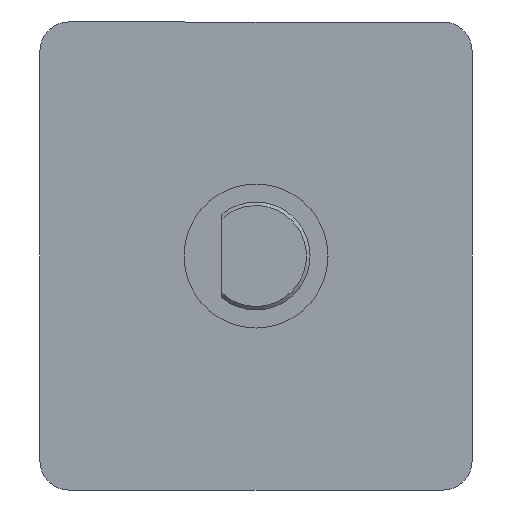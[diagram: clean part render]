
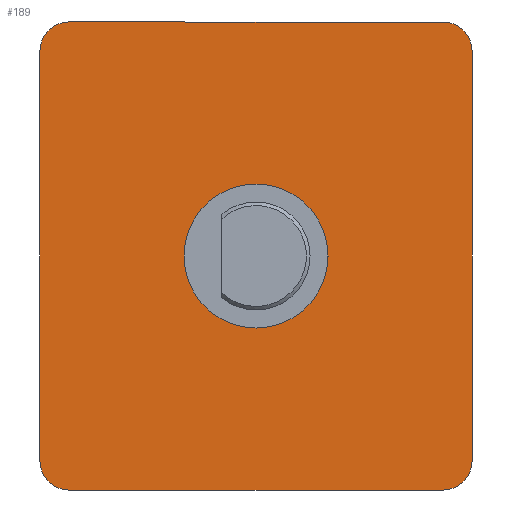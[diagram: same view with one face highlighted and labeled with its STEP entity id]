
A CAD part, left-side view. The second image highlights one B-rep face of the part: STEP entity #189.
In plain terms, the highlighted planar face has unit normal (-1, 0, 0).
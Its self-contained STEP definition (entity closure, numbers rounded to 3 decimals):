
#1 = VERTEX_POINT ( 'NONE', #331 ) ;
#4 = LINE ( 'NONE', #170, #154 ) ;
#7 = VECTOR ( 'NONE', #525, 1000. ) ;
#11 = PLANE ( 'NONE',  #349 ) ;
#19 = VERTEX_POINT ( 'NONE', #118 ) ;
#43 = AXIS2_PLACEMENT_3D ( 'NONE', #277, #411, #381 ) ;
#47 = ORIENTED_EDGE ( 'NONE', *, *, #471, .T. ) ;
#68 = CARTESIAN_POINT ( 'NONE',  ( 0., 0., 0. ) ) ;
#77 = CARTESIAN_POINT ( 'NONE',  ( 0., 2., 0. ) ) ;
#78 = ORIENTED_EDGE ( 'NONE', *, *, #352, .T. ) ;
#82 = VERTEX_POINT ( 'NONE', #205 ) ;
#84 = CARTESIAN_POINT ( 'NONE',  ( 0., 0., 0. ) ) ;
#92 = EDGE_LOOP ( 'NONE', ( #183, #198, #106, #497, #499, #208, #146, #257 ) ) ;
#106 = ORIENTED_EDGE ( 'NONE', *, *, #488, .F. ) ;
#108 = AXIS2_PLACEMENT_3D ( 'NONE', #286, #464, #246 ) ;
#110 = DIRECTION ( 'NONE',  ( 1., 0., 0. ) ) ;
#114 = CARTESIAN_POINT ( 'NONE',  ( 0., -5.2, 6.5 ) ) ;
#116 = CARTESIAN_POINT ( 'NONE',  ( 0., -5.2, -6.5 ) ) ;
#118 = CARTESIAN_POINT ( 'NONE',  ( 0., -2., 0. ) ) ;
#128 = DIRECTION ( 'NONE',  ( 0., 1., 0. ) ) ;
#130 = CIRCLE ( 'NONE', #493, 0.8 ) ;
#140 = CIRCLE ( 'NONE', #318, 2. ) ;
#146 = ORIENTED_EDGE ( 'NONE', *, *, #194, .F. ) ;
#154 = VECTOR ( 'NONE', #565, 1000. ) ;
#162 = VERTEX_POINT ( 'NONE', #498 ) ;
#170 = CARTESIAN_POINT ( 'NONE',  ( 0., 6., 5.7 ) ) ;
#172 = DIRECTION ( 'NONE',  ( 1., 0., 0. ) ) ;
#173 = CARTESIAN_POINT ( 'NONE',  ( 0., -6., 5.7 ) ) ;
#183 = ORIENTED_EDGE ( 'NONE', *, *, #378, .F. ) ;
#189 = ADVANCED_FACE ( 'NONE', ( #269, #230 ), #11, .F. ) ;
#192 = VERTEX_POINT ( 'NONE', #116 ) ;
#194 = EDGE_CURVE ( 'NONE', #1, #192, #289, .T. ) ;
#198 = ORIENTED_EDGE ( 'NONE', *, *, #356, .F. ) ;
#205 = CARTESIAN_POINT ( 'NONE',  ( 0., 6., 5.7 ) ) ;
#208 = ORIENTED_EDGE ( 'NONE', *, *, #391, .F. ) ;
#216 = DIRECTION ( 'NONE',  ( 0., 1., 0. ) ) ;
#219 = VERTEX_POINT ( 'NONE', #513 ) ;
#222 = LINE ( 'NONE', #173, #7 ) ;
#230 = FACE_OUTER_BOUND ( 'NONE', #92, .T. ) ;
#241 = DIRECTION ( 'NONE',  ( 1., 0., 0. ) ) ;
#245 = VECTOR ( 'NONE', #216, 1000. ) ;
#246 = DIRECTION ( 'NONE',  ( 0., 0., -1. ) ) ;
#255 = CARTESIAN_POINT ( 'NONE',  ( 0., 5.2, -6.5 ) ) ;
#257 = ORIENTED_EDGE ( 'NONE', *, *, #544, .F. ) ;
#258 = DIRECTION ( 'NONE',  ( 0., -1., 0. ) ) ;
#269 = FACE_BOUND ( 'NONE', #347, .T. ) ;
#277 = CARTESIAN_POINT ( 'NONE',  ( 0., 5.2, -5.7 ) ) ;
#281 = EDGE_CURVE ( 'NONE', #219, #162, #336, .T. ) ;
#282 = DIRECTION ( 'NONE',  ( 0., 0., -1. ) ) ;
#286 = CARTESIAN_POINT ( 'NONE',  ( 0., 5.2, 5.7 ) ) ;
#288 = DIRECTION ( 'NONE',  ( 1., 0., 0. ) ) ;
#289 = CIRCLE ( 'NONE', #500, 0.8 ) ;
#292 = VERTEX_POINT ( 'NONE', #77 ) ;
#293 = CARTESIAN_POINT ( 'NONE',  ( 0., 5.2, 6.5 ) ) ;
#296 = CARTESIAN_POINT ( 'NONE',  ( 0., -6., 5.7 ) ) ;
#310 = AXIS2_PLACEMENT_3D ( 'NONE', #84, #519, #128 ) ;
#318 = AXIS2_PLACEMENT_3D ( 'NONE', #68, #241, #330 ) ;
#330 = DIRECTION ( 'NONE',  ( 0., 1., 0. ) ) ;
#331 = CARTESIAN_POINT ( 'NONE',  ( 0., -6., -5.7 ) ) ;
#336 = CIRCLE ( 'NONE', #43, 0.8 ) ;
#342 = LINE ( 'NONE', #293, #546 ) ;
#347 = EDGE_LOOP ( 'NONE', ( #47, #78 ) ) ;
#349 = AXIS2_PLACEMENT_3D ( 'NONE', #492, #110, #282 ) ;
#352 = EDGE_CURVE ( 'NONE', #19, #292, #417, .T. ) ;
#356 = EDGE_CURVE ( 'NONE', #477, #486, #342, .T. ) ;
#378 = EDGE_CURVE ( 'NONE', #486, #380, #130, .T. ) ;
#380 = VERTEX_POINT ( 'NONE', #296 ) ;
#381 = DIRECTION ( 'NONE',  ( 0., 0., -1. ) ) ;
#391 = EDGE_CURVE ( 'NONE', #192, #219, #476, .T. ) ;
#411 = DIRECTION ( 'NONE',  ( 1., 0., 0. ) ) ;
#416 = CARTESIAN_POINT ( 'NONE',  ( 0., 5.2, 6.5 ) ) ;
#417 = CIRCLE ( 'NONE', #310, 2. ) ;
#418 = CARTESIAN_POINT ( 'NONE',  ( 0., -5.2, -5.7 ) ) ;
#421 = DIRECTION ( 'NONE',  ( 0., 0., -1. ) ) ;
#458 = CIRCLE ( 'NONE', #108, 0.8 ) ;
#464 = DIRECTION ( 'NONE',  ( 1., 0., 0. ) ) ;
#471 = EDGE_CURVE ( 'NONE', #292, #19, #140, .T. ) ;
#476 = LINE ( 'NONE', #255, #245 ) ;
#477 = VERTEX_POINT ( 'NONE', #416 ) ;
#479 = DIRECTION ( 'NONE',  ( 0., 0., -1. ) ) ;
#486 = VERTEX_POINT ( 'NONE', #114 ) ;
#488 = EDGE_CURVE ( 'NONE', #82, #477, #458, .T. ) ;
#492 = CARTESIAN_POINT ( 'NONE',  ( 0., -5.2, 5.7 ) ) ;
#493 = AXIS2_PLACEMENT_3D ( 'NONE', #564, #172, #479 ) ;
#497 = ORIENTED_EDGE ( 'NONE', *, *, #568, .F. ) ;
#498 = CARTESIAN_POINT ( 'NONE',  ( 0., 6., -5.7 ) ) ;
#499 = ORIENTED_EDGE ( 'NONE', *, *, #281, .F. ) ;
#500 = AXIS2_PLACEMENT_3D ( 'NONE', #418, #288, #421 ) ;
#513 = CARTESIAN_POINT ( 'NONE',  ( 0., 5.2, -6.5 ) ) ;
#519 = DIRECTION ( 'NONE',  ( 1., 0., 0. ) ) ;
#525 = DIRECTION ( 'NONE',  ( 0., 0., -1. ) ) ;
#544 = EDGE_CURVE ( 'NONE', #380, #1, #222, .T. ) ;
#546 = VECTOR ( 'NONE', #258, 1000. ) ;
#564 = CARTESIAN_POINT ( 'NONE',  ( 0., -5.2, 5.7 ) ) ;
#565 = DIRECTION ( 'NONE',  ( 0., 0., 1. ) ) ;
#568 = EDGE_CURVE ( 'NONE', #162, #82, #4, .T. ) ;
